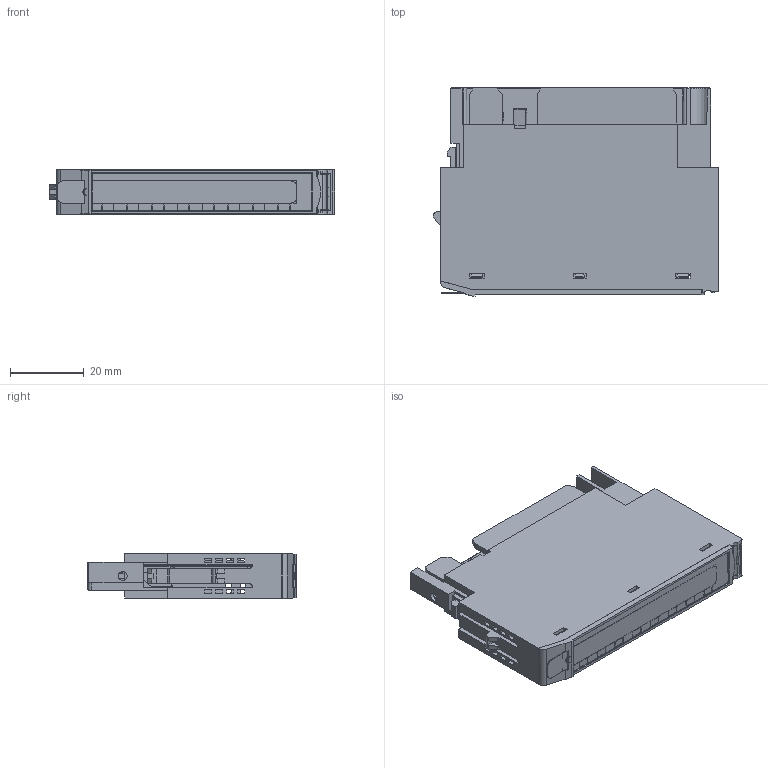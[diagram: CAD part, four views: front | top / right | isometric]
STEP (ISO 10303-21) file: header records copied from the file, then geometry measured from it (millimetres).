
FILE_DESCRIPTION((''),'2;1');
FILE_NAME('1734-OW4_ASM','2020-10-05T13:53:43',('SSharm35'),('Rockwell Automation'),'CREO PARAMETRIC BY PTC INC, 2017380','CREO PARAMETRIC BY PTC INC, 2017380','');
FILE_SCHEMA(('CONFIG_CONTROL_DESIGN'));
Products named in the file (8): 97749601-PRT; 92409292_05; 92409292_05_ASM; 97749801; 97749702-PRT; 98620803; 98620701-PRT; 1734-OW4_ASM
Assembly tree (7 placements, depth 3):
  1734-OW4_ASM
    97749601-PRT
    92409292_05_ASM
      92409292_05
    97749801
    97749702-PRT
    98620803
    98620701-PRT
Bounding box: 77.5 x 56.6 x 12.08 mm (x, y, z)
Volume: 17593.7 mm3; surface area: 31488 mm2
Topology: 6 solids, 6 shells, 1067 faces, 3071 edges, 1978 vertices
Faces by surface type: plane 707, cylinder 225, cone 75, bspline 39, torus 16, sphere 5
Entity records: 37505 total; most frequent: CARTESIAN_POINT 9899, ORIENTED_EDGE 6142, DIRECTION 5086, EDGE_CURVE 3071, VECTOR 2316, LINE 2316, VERTEX_POINT 1978, AXIS2_PLACEMENT_3D 1385
